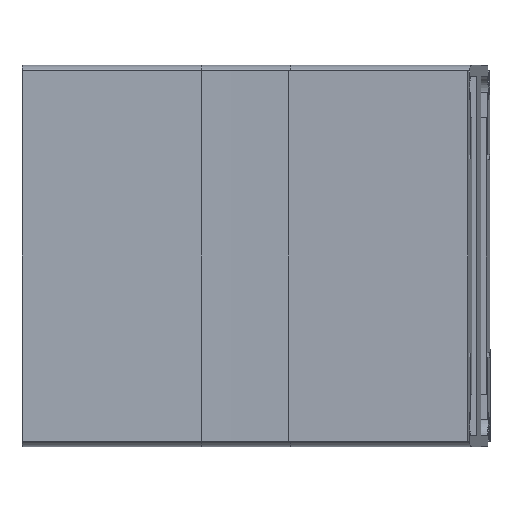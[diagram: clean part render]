
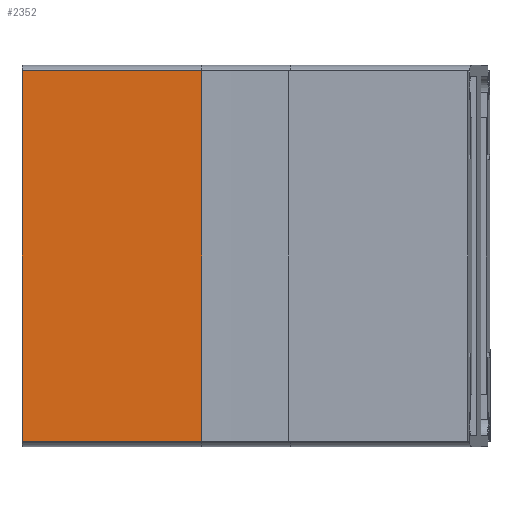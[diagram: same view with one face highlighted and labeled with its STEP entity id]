
A CAD part, front view. The second image highlights one B-rep face of the part: STEP entity #2352.
In plain terms, the highlighted planar face has unit normal (0, -1, 0).
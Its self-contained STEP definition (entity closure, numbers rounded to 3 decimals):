
#241 = VECTOR ( 'NONE', #2029, 1000. ) ;
#638 = CARTESIAN_POINT ( 'NONE',  ( 40., -56.5, -41.275 ) ) ;
#773 = VECTOR ( 'NONE', #5291, 1000. ) ;
#803 = CARTESIAN_POINT ( 'NONE',  ( 40., -56.5, -41.275 ) ) ;
#858 = EDGE_LOOP ( 'NONE', ( #5320, #3167, #4524, #1037 ) ) ;
#910 = LINE ( 'NONE', #2640, #773 ) ;
#1037 = ORIENTED_EDGE ( 'NONE', *, *, #5364, .F. ) ;
#1129 = VERTEX_POINT ( 'NONE', #2947 ) ;
#1260 = CARTESIAN_POINT ( 'NONE',  ( 0., -56.5, -41.275 ) ) ;
#1575 = CARTESIAN_POINT ( 'NONE',  ( 40., -56.5, 0. ) ) ;
#1728 = CARTESIAN_POINT ( 'NONE',  ( 40., -56.5, 41.275 ) ) ;
#1738 = VERTEX_POINT ( 'NONE', #1260 ) ;
#1786 = LINE ( 'NONE', #4711, #5559 ) ;
#1817 = VERTEX_POINT ( 'NONE', #803 ) ;
#2029 = DIRECTION ( 'NONE',  ( 0., 0., -1. ) ) ;
#2063 = DIRECTION ( 'NONE',  ( -1., 0., 0. ) ) ;
#2352 = ADVANCED_FACE ( 'NONE', ( #4823 ), #4654, .F. ) ;
#2374 = DIRECTION ( 'NONE',  ( 0., 0., 1. ) ) ;
#2462 = EDGE_CURVE ( 'NONE', #4720, #1129, #1786, .T. ) ;
#2640 = CARTESIAN_POINT ( 'NONE',  ( 40., -56.5, -41.275 ) ) ;
#2947 = CARTESIAN_POINT ( 'NONE',  ( 0., -56.5, 41.275 ) ) ;
#3167 = ORIENTED_EDGE ( 'NONE', *, *, #2462, .T. ) ;
#3310 = DIRECTION ( 'NONE',  ( 0., 1., 0. ) ) ;
#3877 = CARTESIAN_POINT ( 'NONE',  ( 0., -56.5, -41.275 ) ) ;
#4043 = VECTOR ( 'NONE', #5501, 1000. ) ;
#4524 = ORIENTED_EDGE ( 'NONE', *, *, #5043, .T. ) ;
#4584 = EDGE_CURVE ( 'NONE', #4720, #1817, #5529, .T. ) ;
#4654 = PLANE ( 'NONE',  #5158 ) ;
#4711 = CARTESIAN_POINT ( 'NONE',  ( 40., -56.5, 41.275 ) ) ;
#4720 = VERTEX_POINT ( 'NONE', #1728 ) ;
#4823 = FACE_OUTER_BOUND ( 'NONE', #858, .T. ) ;
#5043 = EDGE_CURVE ( 'NONE', #1129, #1738, #5600, .T. ) ;
#5158 = AXIS2_PLACEMENT_3D ( 'NONE', #638, #3310, #2374 ) ;
#5291 = DIRECTION ( 'NONE',  ( -1., 0., 0. ) ) ;
#5320 = ORIENTED_EDGE ( 'NONE', *, *, #4584, .F. ) ;
#5364 = EDGE_CURVE ( 'NONE', #1817, #1738, #910, .T. ) ;
#5501 = DIRECTION ( 'NONE',  ( 0., 0., -1. ) ) ;
#5529 = LINE ( 'NONE', #1575, #4043 ) ;
#5559 = VECTOR ( 'NONE', #2063, 1000. ) ;
#5600 = LINE ( 'NONE', #3877, #241 ) ;
